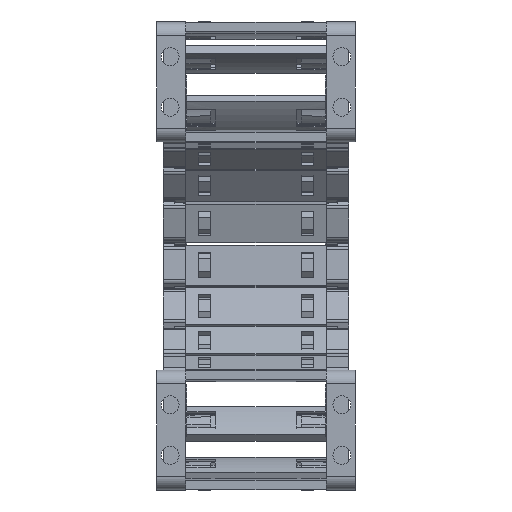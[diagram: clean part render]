
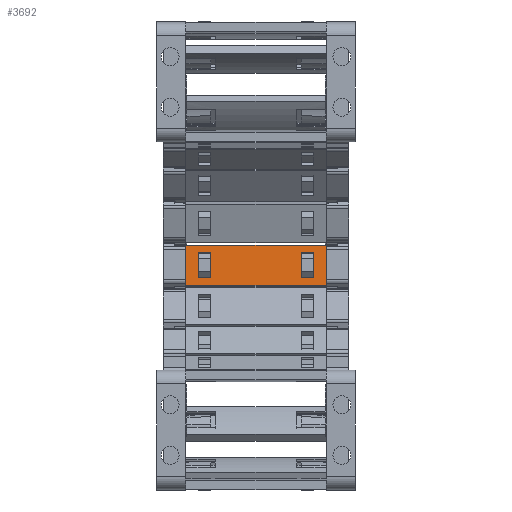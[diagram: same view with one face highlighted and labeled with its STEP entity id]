
A CAD part, left-side view. The second image highlights one B-rep face of the part: STEP entity #3692.
In plain terms, the highlighted planar face has unit normal (-0.998, 0, 0.07) as drawn and (0, 0, -1) by its records, which use the part's own axes.
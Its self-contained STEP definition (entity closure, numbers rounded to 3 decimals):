
#3172=DIRECTION('',(-1.,0.,0.));
#3173=VECTOR('',#3172,18.);
#3174=CARTESIAN_POINT('',(9.,-37.25,0.));
#3175=LINE('',#3174,#3173);
#3210=DIRECTION('',(0.,1.,0.));
#3211=VECTOR('',#3210,5.56);
#3212=CARTESIAN_POINT('',(-5.55,14.2,0.));
#3213=LINE('',#3212,#3211);
#3214=DIRECTION('',(1.,0.,0.));
#3215=VECTOR('',#3214,11.1);
#3216=CARTESIAN_POINT('',(-5.55,19.76,0.));
#3217=LINE('',#3216,#3215);
#3218=DIRECTION('',(0.,-1.,0.));
#3219=VECTOR('',#3218,5.56);
#3220=CARTESIAN_POINT('',(5.55,19.76,0.));
#3221=LINE('',#3220,#3219);
#3222=DIRECTION('',(-1.,0.,0.));
#3223=VECTOR('',#3222,11.1);
#3224=CARTESIAN_POINT('',(5.55,14.2,0.));
#3225=LINE('',#3224,#3223);
#3230=DIRECTION('',(1.,0.,0.));
#3231=VECTOR('',#3230,18.);
#3232=CARTESIAN_POINT('',(-9.,25.25,0.));
#3233=LINE('',#3232,#3231);
#3264=DIRECTION('',(0.,1.,0.));
#3265=VECTOR('',#3264,62.5);
#3266=CARTESIAN_POINT('',(-9.,-37.25,0.));
#3267=LINE('',#3266,#3265);
#3393=DIRECTION('',(0.,-1.,0.));
#3394=VECTOR('',#3393,62.5);
#3395=CARTESIAN_POINT('',(9.,25.25,0.));
#3396=LINE('',#3395,#3394);
#3458=DIRECTION('',(0.,-1.,0.));
#3459=VECTOR('',#3458,5.56);
#3460=CARTESIAN_POINT('',(-5.55,-26.2,0.));
#3461=LINE('',#3460,#3459);
#3470=DIRECTION('',(0.,1.,0.));
#3471=VECTOR('',#3470,5.56);
#3472=CARTESIAN_POINT('',(5.55,-31.76,0.));
#3473=LINE('',#3472,#3471);
#3482=DIRECTION('',(1.,0.,0.));
#3483=VECTOR('',#3482,11.1);
#3484=CARTESIAN_POINT('',(-5.55,-31.76,0.));
#3485=LINE('',#3484,#3483);
#3494=DIRECTION('',(-1.,0.,0.));
#3495=VECTOR('',#3494,11.1);
#3496=CARTESIAN_POINT('',(5.55,-26.2,0.));
#3497=LINE('',#3496,#3495);
#3546=CARTESIAN_POINT('',(9.,-37.25,0.));
#3547=CARTESIAN_POINT('',(-9.,-37.25,0.));
#3548=VERTEX_POINT('',#3546);
#3549=VERTEX_POINT('',#3547);
#3570=CARTESIAN_POINT('',(-5.55,-26.2,0.));
#3571=CARTESIAN_POINT('',(-5.55,-31.76,0.));
#3572=VERTEX_POINT('',#3570);
#3573=VERTEX_POINT('',#3571);
#3574=CARTESIAN_POINT('',(5.55,-26.2,0.));
#3575=VERTEX_POINT('',#3574);
#3576=CARTESIAN_POINT('',(5.55,-31.76,0.));
#3577=VERTEX_POINT('',#3576);
#3602=CARTESIAN_POINT('',(-9.,25.25,0.));
#3603=CARTESIAN_POINT('',(9.,25.25,0.));
#3604=VERTEX_POINT('',#3602);
#3605=VERTEX_POINT('',#3603);
#3606=CARTESIAN_POINT('',(-5.55,14.2,0.));
#3607=CARTESIAN_POINT('',(-5.55,19.76,0.));
#3608=VERTEX_POINT('',#3606);
#3609=VERTEX_POINT('',#3607);
#3610=CARTESIAN_POINT('',(5.55,19.76,0.));
#3611=VERTEX_POINT('',#3610);
#3612=CARTESIAN_POINT('',(5.55,14.2,0.));
#3613=VERTEX_POINT('',#3612);
#3658=CARTESIAN_POINT('',(8.,-37.25,0.));
#3659=DIRECTION('',(0.,0.,-1.));
#3660=DIRECTION('',(-1.,0.,0.));
#3661=AXIS2_PLACEMENT_3D('',#3658,#3659,#3660);
#3662=PLANE('',#3661);
#3664=ORIENTED_EDGE('',*,*,#3663,.F.);
#3666=ORIENTED_EDGE('',*,*,#3665,.F.);
#3667=ORIENTED_EDGE('',*,*,#3631,.F.);
#3669=ORIENTED_EDGE('',*,*,#3668,.F.);
#3670=EDGE_LOOP('',(#3664,#3666,#3667,#3669));
#3671=FACE_OUTER_BOUND('',#3670,.F.);
#3673=ORIENTED_EDGE('',*,*,#3672,.T.);
#3675=ORIENTED_EDGE('',*,*,#3674,.T.);
#3677=ORIENTED_EDGE('',*,*,#3676,.T.);
#3679=ORIENTED_EDGE('',*,*,#3678,.T.);
#3680=EDGE_LOOP('',(#3673,#3675,#3677,#3679));
#3681=FACE_BOUND('',#3680,.F.);
#3683=ORIENTED_EDGE('',*,*,#3682,.F.);
#3685=ORIENTED_EDGE('',*,*,#3684,.F.);
#3687=ORIENTED_EDGE('',*,*,#3686,.F.);
#3689=ORIENTED_EDGE('',*,*,#3688,.F.);
#3690=EDGE_LOOP('',(#3683,#3685,#3687,#3689));
#3691=FACE_BOUND('',#3690,.F.);
#3692=ADVANCED_FACE('',(#3671,#3681,#3691),#3662,.T.);
#3631=EDGE_CURVE('',#3548,#3549,#3175,.T.);
#3663=EDGE_CURVE('',#3604,#3605,#3233,.T.);
#3665=EDGE_CURVE('',#3549,#3604,#3267,.T.);
#3668=EDGE_CURVE('',#3605,#3548,#3396,.T.);
#3672=EDGE_CURVE('',#3608,#3609,#3213,.T.);
#3674=EDGE_CURVE('',#3609,#3611,#3217,.T.);
#3676=EDGE_CURVE('',#3611,#3613,#3221,.T.);
#3678=EDGE_CURVE('',#3613,#3608,#3225,.T.);
#3682=EDGE_CURVE('',#3572,#3573,#3461,.T.);
#3684=EDGE_CURVE('',#3575,#3572,#3497,.T.);
#3686=EDGE_CURVE('',#3577,#3575,#3473,.T.);
#3688=EDGE_CURVE('',#3573,#3577,#3485,.T.);
